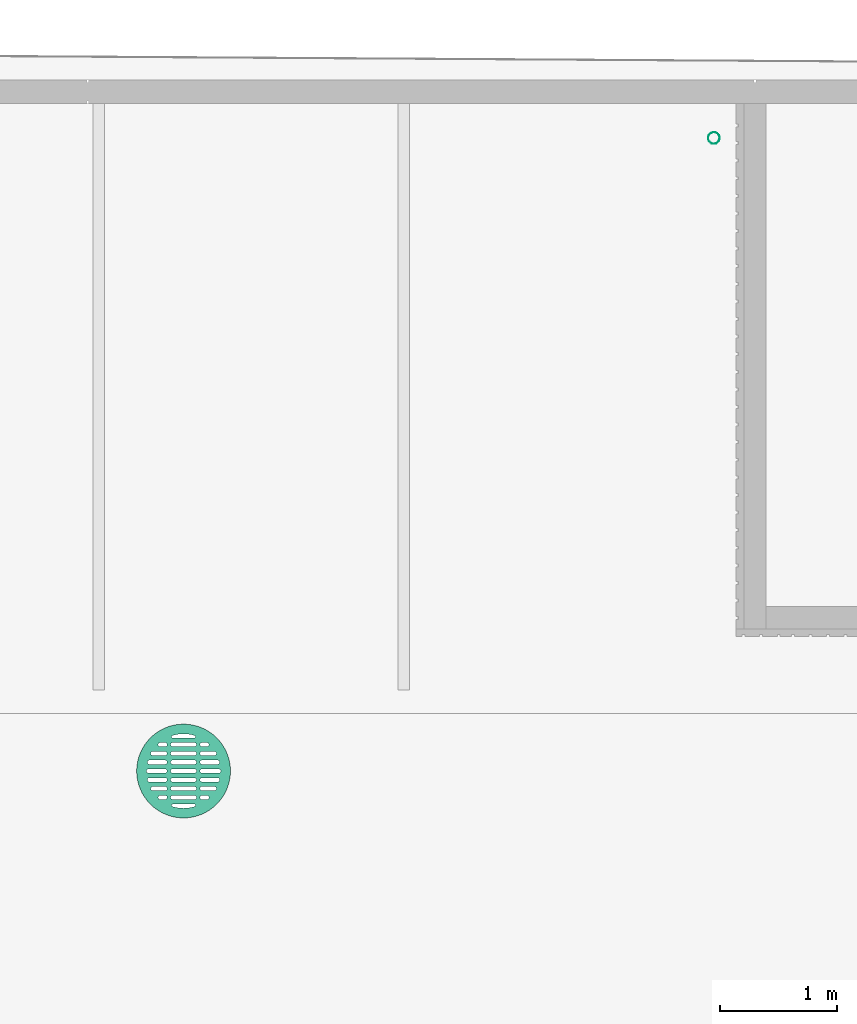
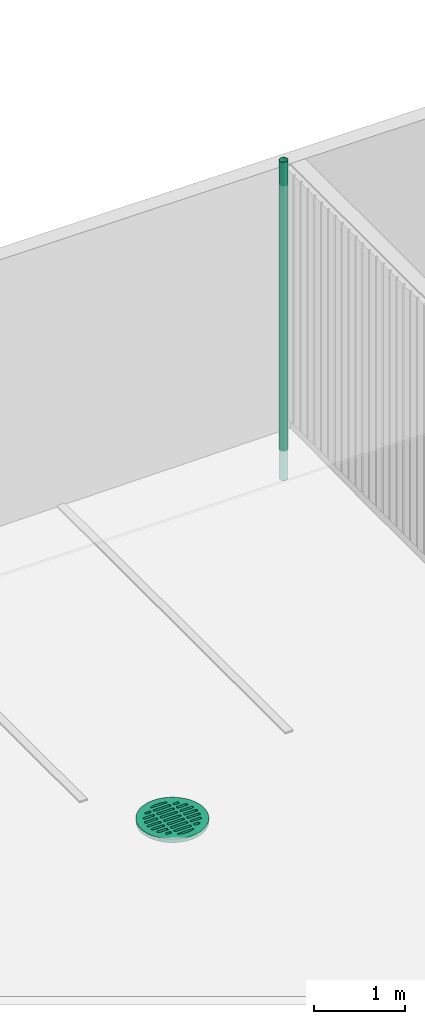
# One storey, part 72 of 77: 2 flow terminals.
"""IFC2X3 building model written with IfcOpenShell, lengths in millimetres."""

from ifc_helpers import new_model, entity, si_unit, converted_unit, derived_unit, direction, frame, frame_2d, origin, origin_2d_with_axis, place, context, subcontext, project, spatial, polyline, circle_curve, parameter, trimmed, segment, composite_curve, hollow_circle, outline, extrude, source, transform, mapped, material, element, save


model = new_model("IFC2X3")

# Units and contexts
model_context = context("Model", 3, precision=0.01, world=origin(), true_north=direction((6.12303176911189e-17, 1.0)))
body_context = subcontext(model_context, "Body", "Model", "MODEL_VIEW")
ifc_project = project(units=[si_unit("LENGTHUNIT", "METRE", prefix="MILLI"), si_unit("AREAUNIT", "SQUARE_METRE"), si_unit("VOLUMEUNIT", "CUBIC_METRE"), converted_unit("PLANEANGLEUNIT", "DEGREE", entity("IfcRatioMeasure", 0.0174532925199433), si_unit("PLANEANGLEUNIT", "RADIAN"), dimensions=[0, 0, 0, 0, 0, 0, 0]), si_unit("MASSUNIT", "GRAM", prefix="KILO"), derived_unit("MASSDENSITYUNIT", [(si_unit("MASSUNIT", "GRAM", prefix="KILO"), 1), (si_unit("LENGTHUNIT", "METRE"), -3)]), si_unit("TIMEUNIT", "SECOND"), si_unit("FREQUENCYUNIT", "HERTZ"), si_unit("THERMODYNAMICTEMPERATUREUNIT", "DEGREE_CELSIUS"), derived_unit("THERMALTRANSMITTANCEUNIT", [(si_unit("MASSUNIT", "GRAM", prefix="KILO"), 1), (si_unit("THERMODYNAMICTEMPERATUREUNIT", "KELVIN"), -1), (si_unit("TIMEUNIT", "SECOND"), -3)]), derived_unit("VOLUMETRICFLOWRATEUNIT", [(si_unit("LENGTHUNIT", "METRE"), 3), (si_unit("TIMEUNIT", "SECOND"), -1)]), si_unit("ELECTRICCURRENTUNIT", "AMPERE"), si_unit("ELECTRICVOLTAGEUNIT", "VOLT"), si_unit("POWERUNIT", "WATT"), si_unit("FORCEUNIT", "NEWTON", prefix="KILO"), si_unit("ILLUMINANCEUNIT", "LUX"), si_unit("LUMINOUSFLUXUNIT", "LUMEN"), si_unit("LUMINOUSINTENSITYUNIT", "CANDELA"), derived_unit("USERDEFINED", [(si_unit("MASSUNIT", "GRAM", prefix="KILO"), -1), (si_unit("LENGTHUNIT", "METRE"), -2), (si_unit("TIMEUNIT", "SECOND"), 3), (si_unit("LUMINOUSFLUXUNIT", "LUMEN"), 1)]), derived_unit("LINEARVELOCITYUNIT", [(si_unit("LENGTHUNIT", "METRE"), 1), (si_unit("TIMEUNIT", "SECOND"), -1)]), si_unit("PRESSUREUNIT", "PASCAL"), derived_unit("USERDEFINED", [(si_unit("LENGTHUNIT", "METRE"), -2), (si_unit("MASSUNIT", "GRAM", prefix="KILO"), 1), (si_unit("TIMEUNIT", "SECOND"), -2)])], contexts=[model_context])

# Site, building, storey
site_placement = place(None, origin())
site = spatial("IfcSite", under=ifc_project, at=site_placement, Name="Default", CompositionType="ELEMENT")
building_placement = place(site_placement, origin())
building = spatial("IfcBuilding", under=site, at=building_placement, CompositionType="ELEMENT")
storey_placement = place(building_placement, origin())
storey = spatial("IfcBuildingStorey", under=building, at=storey_placement, Name="1. KORRUS", CompositionType="ELEMENT", Elevation=0.0)

# Flow terminals
ifc_material_1 = material(Name="RAL8023")
shared_shape_1 = source(origin(), body_context, "Body", "SweptSolid", [
    extrude(hollow_circle(Radius=49.9999999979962, WallThickness=2.0, at=origin_2d_with_axis()), frame((944.769999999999, 40304.9994344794, -534.524799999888)), (0.0, 0.0, 1.0), 4254.99999999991),
])
flow_terminal_1_placement = place(storey_placement, origin())
element("IfcFlowTerminal", 1, at=flow_terminal_1_placement, inside=storey, material=ifc_material_1, Name="varikatuse vihmaveetoru 4:varikatuse vihmaveetoru 1", ObjectType="varikatuse vihmaveetoru 1", context=body_context, shape_type="MappedRepresentation", body=[
    mapped(shared_shape_1, transform((0.0, 0.0, 0.0), scale=1.0)),
])
ifc_material_2 = material(Name="malm")
shared_shape_2 = source(origin(), body_context, "Body", "SweptSolid", [
    extrude(outline(composite_curve([segment(trimmed(circle_curve(origin_2d_with_axis(), 400.0), [parameter(0.0)], [parameter(180.0)], True, "PARAMETER"), True, "CONTINUOUS"), segment(trimmed(circle_curve(origin_2d_with_axis(), 400.0), [parameter(180.0)], [parameter(360.0)], True, "PARAMETER"), True, "CONTINUOUS")], self_intersect=False), holes=[composite_curve([segment(trimmed(circle_curve(frame_2d((92.5, 0.0), x_axis=(1.0, 0.0)), 17.5), [parameter(270.0)], [parameter(90.0)], True, "PARAMETER"), False, "CONTINUOUS"), segment(polyline([(92.5, -17.5000000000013), (-92.5, -17.5000000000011)]), True, "CONTINUOUS"), segment(trimmed(circle_curve(frame_2d((-92.5, 0.0), x_axis=(-1.0, 0.0)), 17.5), [parameter(270.0)], [parameter(90.0000000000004)], True, "PARAMETER"), False, "CONTINUOUS"), segment(polyline([(-92.5000000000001, 17.4999999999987), (92.5, 17.4999999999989)]), True, "CONTINUOUS")], self_intersect=False), composite_curve([segment(trimmed(circle_curve(frame_2d((92.5000000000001, 75.0), x_axis=(1.0, 0.0)), 17.5), [parameter(270.0)], [parameter(90.0000000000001)], True, "PARAMETER"), False, "CONTINUOUS"), segment(polyline([(92.5000000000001, 57.4999999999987), (-92.4999999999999, 57.4999999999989)]), True, "CONTINUOUS"), segment(trimmed(circle_curve(frame_2d((-92.4999999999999, 75.0), x_axis=(-1.0, 0.0)), 17.5), [parameter(270.0)], [parameter(90.0000000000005)], True, "PARAMETER"), False, "CONTINUOUS"), segment(polyline([(-92.5, 92.4999999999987), (92.5000000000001, 92.4999999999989)]), True, "CONTINUOUS")], self_intersect=False), composite_curve([segment(trimmed(circle_curve(frame_2d((92.5000000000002, 150.0), x_axis=(1.0, 0.0)), 17.5), [parameter(270.0)], [parameter(90.0000000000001)], True, "PARAMETER"), False, "CONTINUOUS"), segment(polyline([(92.5000000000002, 132.499999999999), (-92.4999999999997, 132.499999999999)]), True, "CONTINUOUS"), segment(trimmed(circle_curve(frame_2d((-92.4999999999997, 150.0), x_axis=(-1.0, 0.0)), 17.5), [parameter(270.0)], [parameter(90.0000000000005)], True, "PARAMETER"), False, "CONTINUOUS"), segment(polyline([(-92.4999999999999, 167.499999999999), (92.5000000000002, 167.499999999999)]), True, "CONTINUOUS")], self_intersect=False), composite_curve([segment(trimmed(circle_curve(frame_2d((92.5000000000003, 225.0), x_axis=(1.0, 0.0)), 17.5), [parameter(270.0)], [parameter(90.0000000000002)], True, "PARAMETER"), False, "CONTINUOUS"), segment(polyline([(92.5000000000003, 207.499999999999), (-92.4999999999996, 207.499999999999)]), True, "CONTINUOUS"), segment(trimmed(circle_curve(frame_2d((-92.4999999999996, 225.0), x_axis=(-1.0, 0.0)), 17.5), [parameter(270.0)], [parameter(90.0000000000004)], True, "PARAMETER"), False, "CONTINUOUS"), segment(polyline([(-92.4999999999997, 242.499999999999), (92.5000000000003, 242.499999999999)]), True, "CONTINUOUS")], self_intersect=False), composite_curve([segment(trimmed(circle_curve(frame_2d((-92.4999999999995, 293.113425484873), x_axis=(1.0, 0.0)), 10.6134254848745), [parameter(125.029046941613)], [parameter(270.0)], True, "PARAMETER"), False, "CONTINUOUS"), segment(trimmed(circle_curve(origin_2d_with_axis(), 317.499999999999), [parameter(71.9090650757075)], [parameter(108.090934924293)], True, "PARAMETER"), False, "CONTINUOUS"), segment(trimmed(circle_curve(frame_2d((92.5000000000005, 293.113425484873), x_axis=(-1.0, 0.0)), 10.6134254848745), [parameter(90.0000000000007)], [parameter(234.970953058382)], True, "PARAMETER"), False, "CONTINUOUS"), segment(polyline([(92.5000000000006, 282.499999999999), (-92.4999999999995, 282.499999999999)]), True, "CONTINUOUS")], self_intersect=False), composite_curve([segment(trimmed(circle_curve(frame_2d((300.0, 0.0), x_axis=(1.0, 0.0)), 17.5), [parameter(270.0)], [parameter(90.0000000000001)], True, "PARAMETER"), False, "CONTINUOUS"), segment(polyline([(300.0, -17.500000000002), (157.5, -17.5000000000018)]), True, "CONTINUOUS"), segment(trimmed(circle_curve(frame_2d((157.5, 0.0), x_axis=(-1.0, 0.0)), 17.5), [parameter(270.0)], [parameter(90.0000000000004)], True, "PARAMETER"), False, "CONTINUOUS"), segment(polyline([(157.5, 17.4999999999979), (300.0, 17.4999999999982)]), True, "CONTINUOUS")], self_intersect=False), composite_curve([segment(trimmed(circle_curve(frame_2d((291.014586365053, 75.0), x_axis=(1.0, 0.0)), 17.5), [parameter(270.0)], [parameter(90.0000000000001)], True, "PARAMETER"), False, "CONTINUOUS"), segment(polyline([(291.014586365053, 57.499999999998), (157.5, 57.4999999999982)]), True, "CONTINUOUS"), segment(trimmed(circle_curve(frame_2d((157.5, 75.0), x_axis=(-1.0, 0.0)), 17.5), [parameter(270.0)], [parameter(90.0000000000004)], True, "PARAMETER"), False, "CONTINUOUS"), segment(polyline([(157.5, 92.4999999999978), (291.014586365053, 92.4999999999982)]), True, "CONTINUOUS")], self_intersect=False), composite_curve([segment(trimmed(circle_curve(frame_2d((262.33253920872, 150.0), x_axis=(1.0, 0.0)), 17.5), [parameter(270.0)], [parameter(90.0000000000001)], True, "PARAMETER"), False, "CONTINUOUS"), segment(polyline([(262.33253920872, 132.499999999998), (157.5, 132.499999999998)]), True, "CONTINUOUS"), segment(trimmed(circle_curve(frame_2d((157.5, 150.0), x_axis=(-1.0, 0.0)), 17.5), [parameter(270.0)], [parameter(90.0000000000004)], True, "PARAMETER"), False, "CONTINUOUS"), segment(polyline([(157.5, 167.499999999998), (262.33253920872, 167.499999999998)]), True, "CONTINUOUS")], self_intersect=False), composite_curve([segment(trimmed(circle_curve(frame_2d((199.154622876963, 225.0), x_axis=(1.0, 0.0)), 17.5), [parameter(270.0)], [parameter(90.0000000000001)], True, "PARAMETER"), False, "CONTINUOUS"), segment(polyline([(199.154622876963, 207.499999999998), (157.5, 207.499999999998)]), True, "CONTINUOUS"), segment(trimmed(circle_curve(frame_2d((157.5, 225.0), x_axis=(-1.0, 0.0)), 17.5), [parameter(270.0)], [parameter(90.0000000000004)], True, "PARAMETER"), False, "CONTINUOUS"), segment(polyline([(157.5, 242.499999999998), (199.154622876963, 242.499999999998)]), True, "CONTINUOUS")], self_intersect=False), composite_curve([segment(polyline([(-291.014586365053, 92.4999999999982), (-157.5, 92.4999999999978)]), True, "CONTINUOUS"), segment(trimmed(circle_curve(frame_2d((-157.5, 75.0), x_axis=(1.0, 0.0)), 17.5), [parameter(270.0)], [parameter(90.0000000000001)], True, "PARAMETER"), False, "CONTINUOUS"), segment(polyline([(-157.5, 57.4999999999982), (-291.014586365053, 57.499999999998)]), True, "CONTINUOUS"), segment(trimmed(circle_curve(frame_2d((-291.014586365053, 75.0), x_axis=(-1.0, 0.0)), 17.5), [parameter(270.0)], [parameter(90.0000000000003)], True, "PARAMETER"), False, "CONTINUOUS")], self_intersect=False), composite_curve([segment(polyline([(-262.33253920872, 167.499999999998), (-157.5, 167.499999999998)]), True, "CONTINUOUS"), segment(trimmed(circle_curve(frame_2d((-157.5, 150.0), x_axis=(1.0, 0.0)), 17.5), [parameter(270.0)], [parameter(90.0000000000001)], True, "PARAMETER"), False, "CONTINUOUS"), segment(polyline([(-157.5, 132.499999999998), (-262.33253920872, 132.499999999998)]), True, "CONTINUOUS"), segment(trimmed(circle_curve(frame_2d((-262.33253920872, 150.0), x_axis=(-1.0, 0.0)), 17.5), [parameter(270.0)], [parameter(90.0000000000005)], True, "PARAMETER"), False, "CONTINUOUS")], self_intersect=False), composite_curve([segment(polyline([(-199.154622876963, 242.499999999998), (-157.5, 242.499999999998)]), True, "CONTINUOUS"), segment(trimmed(circle_curve(frame_2d((-157.5, 225.0), x_axis=(1.0, 0.0)), 17.5), [parameter(270.0)], [parameter(90.0000000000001)], True, "PARAMETER"), False, "CONTINUOUS"), segment(polyline([(-157.5, 207.499999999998), (-199.154622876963, 207.499999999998)]), True, "CONTINUOUS"), segment(trimmed(circle_curve(frame_2d((-199.154622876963, 225.0), x_axis=(-1.0, 0.0)), 17.5), [parameter(270.0)], [parameter(90.0000000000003)], True, "PARAMETER"), False, "CONTINUOUS")], self_intersect=False), composite_curve([segment(polyline([(-300.0, 17.4999999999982), (-157.5, 17.4999999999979)]), True, "CONTINUOUS"), segment(trimmed(circle_curve(frame_2d((-157.5, 0.0), x_axis=(1.0, 0.0)), 17.5), [parameter(270.0)], [parameter(90.0000000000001)], True, "PARAMETER"), False, "CONTINUOUS"), segment(polyline([(-157.5, -17.5000000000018), (-300.0, -17.500000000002)]), True, "CONTINUOUS"), segment(trimmed(circle_curve(frame_2d((-300.0, 0.0), x_axis=(-1.0, 0.0)), 17.5), [parameter(270.0)], [parameter(90.0000000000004)], True, "PARAMETER"), False, "CONTINUOUS")], self_intersect=False), composite_curve([segment(polyline([(92.5000000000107, -92.5000000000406), (-92.4999999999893, -92.5000000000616)]), True, "CONTINUOUS"), segment(trimmed(circle_curve(frame_2d((-92.4999999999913, -75.0), x_axis=(-1.0, 0.0)), 17.5), [parameter(270.0)], [parameter(90.0000000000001)], True, "PARAMETER"), False, "CONTINUOUS"), segment(polyline([(-92.4999999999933, -57.5000000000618), (92.5000000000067, -57.5000000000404)]), True, "CONTINUOUS"), segment(trimmed(circle_curve(frame_2d((92.5000000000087, -75.0), x_axis=(1.0, 0.0)), 17.5), [parameter(270.0)], [parameter(90.0000000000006)], True, "PARAMETER"), False, "CONTINUOUS")], self_intersect=False), composite_curve([segment(polyline([(92.5000000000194, -167.500000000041), (-92.4999999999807, -167.500000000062)]), True, "CONTINUOUS"), segment(trimmed(circle_curve(frame_2d((-92.4999999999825, -150.0), x_axis=(-1.0, 0.0)), 17.5), [parameter(270.0)], [parameter(90.0000000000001)], True, "PARAMETER"), False, "CONTINUOUS"), segment(polyline([(-92.4999999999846, -132.500000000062), (92.5000000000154, -132.50000000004)]), True, "CONTINUOUS"), segment(trimmed(circle_curve(frame_2d((92.5000000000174, -150.0), x_axis=(1.0, 0.0)), 17.5), [parameter(270.0)], [parameter(90.0000000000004)], True, "PARAMETER"), False, "CONTINUOUS")], self_intersect=False), composite_curve([segment(polyline([(92.5000000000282, -242.500000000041), (-92.4999999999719, -242.500000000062)]), True, "CONTINUOUS"), segment(trimmed(circle_curve(frame_2d((-92.4999999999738, -225.0), x_axis=(-1.0, 0.0)), 17.5), [parameter(270.0)], [parameter(90.0)], True, "PARAMETER"), False, "CONTINUOUS"), segment(polyline([(-92.4999999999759, -207.500000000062), (92.5000000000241, -207.50000000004)]), True, "CONTINUOUS"), segment(trimmed(circle_curve(frame_2d((92.5000000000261, -225.0), x_axis=(1.0, 0.0)), 17.5), [parameter(270.0)], [parameter(90.0000000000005)], True, "PARAMETER"), False, "CONTINUOUS")], self_intersect=False), composite_curve([segment(polyline([(-92.4999999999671, -282.500000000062), (92.5000000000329, -282.500000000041)]), True, "CONTINUOUS"), segment(trimmed(circle_curve(frame_2d((92.5000000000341, -293.113425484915), x_axis=(-1.0, 0.0)), 10.6134254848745), [parameter(125.029046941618)], [parameter(270.0)], True, "PARAMETER"), False, "CONTINUOUS"), segment(trimmed(circle_curve(origin_2d_with_axis(), 317.499999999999), [parameter(251.909065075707)], [parameter(288.090934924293)], True, "PARAMETER"), False, "CONTINUOUS"), segment(trimmed(circle_curve(frame_2d((-92.4999999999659, -293.113425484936), x_axis=(1.0, 0.0)), 10.6134254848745), [parameter(90.0000000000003)], [parameter(234.970953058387)], True, "PARAMETER"), False, "CONTINUOUS")], self_intersect=False), composite_curve([segment(polyline([(291.014586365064, -92.5000000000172), (157.500000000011, -92.5000000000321)]), True, "CONTINUOUS"), segment(trimmed(circle_curve(frame_2d((157.500000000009, -75.0), x_axis=(-1.0, 0.0)), 17.5), [parameter(270.0)], [parameter(90.0)], True, "PARAMETER"), False, "CONTINUOUS"), segment(polyline([(157.500000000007, -57.5000000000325), (291.01458636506, -57.5000000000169)]), True, "CONTINUOUS"), segment(trimmed(circle_curve(frame_2d((291.014586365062, -75.0), x_axis=(1.0, 0.0)), 17.5), [parameter(270.0)], [parameter(90.0000000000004)], True, "PARAMETER"), False, "CONTINUOUS")], self_intersect=False), composite_curve([segment(polyline([(262.33253920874, -167.50000000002), (157.500000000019, -167.500000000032)]), True, "CONTINUOUS"), segment(trimmed(circle_curve(frame_2d((157.500000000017, -150.0), x_axis=(-1.0, 0.0)), 17.5), [parameter(270.0)], [parameter(90.0)], True, "PARAMETER"), False, "CONTINUOUS"), segment(polyline([(157.500000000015, -132.500000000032), (262.332539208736, -132.50000000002)]), True, "CONTINUOUS"), segment(trimmed(circle_curve(frame_2d((262.332539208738, -150.0), x_axis=(1.0, 0.0)), 17.5), [parameter(270.0)], [parameter(90.0000000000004)], True, "PARAMETER"), False, "CONTINUOUS")], self_intersect=False), composite_curve([segment(polyline([(199.154622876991, -242.500000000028), (157.500000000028, -242.500000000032)]), True, "CONTINUOUS"), segment(trimmed(circle_curve(frame_2d((157.500000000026, -225.0), x_axis=(-1.0, 0.0)), 17.5), [parameter(270.0)], [parameter(90.0)], True, "PARAMETER"), False, "CONTINUOUS"), segment(polyline([(157.500000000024, -207.500000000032), (199.154622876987, -207.500000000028)]), True, "CONTINUOUS"), segment(trimmed(circle_curve(frame_2d((199.154622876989, -225.0), x_axis=(1.0, 0.0)), 17.5), [parameter(270.0)], [parameter(90.0000000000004)], True, "PARAMETER"), False, "CONTINUOUS")], self_intersect=False), composite_curve([segment(trimmed(circle_curve(frame_2d((-291.014586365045, -75.0), x_axis=(-1.0, 0.0)), 17.5), [parameter(270.0)], [parameter(90.0000000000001)], True, "PARAMETER"), False, "CONTINUOUS"), segment(polyline([(-291.014586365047, -57.5000000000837), (-157.499999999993, -57.5000000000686)]), True, "CONTINUOUS"), segment(trimmed(circle_curve(frame_2d((-157.499999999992, -75.0), x_axis=(1.0, 0.0)), 17.5), [parameter(270.0)], [parameter(90.0000000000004)], True, "PARAMETER"), False, "CONTINUOUS"), segment(polyline([(-157.499999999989, -92.5000000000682), (-291.014586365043, -92.5000000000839)]), True, "CONTINUOUS")], self_intersect=False), composite_curve([segment(trimmed(circle_curve(frame_2d((-262.332539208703, -150.0), x_axis=(-1.0, 0.0)), 17.5), [parameter(270.0)], [parameter(90.0000000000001)], True, "PARAMETER"), False, "CONTINUOUS"), segment(polyline([(-262.332539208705, -132.50000000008), (-157.499999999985, -132.500000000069)]), True, "CONTINUOUS"), segment(trimmed(circle_curve(frame_2d((-157.499999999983, -150.0), x_axis=(1.0, 0.0)), 17.5), [parameter(270.0)], [parameter(90.0000000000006)], True, "PARAMETER"), False, "CONTINUOUS"), segment(polyline([(-157.499999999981, -167.500000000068), (-262.332539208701, -167.500000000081)]), True, "CONTINUOUS")], self_intersect=False), composite_curve([segment(trimmed(circle_curve(frame_2d((-199.154622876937, -225.0), x_axis=(-1.0, 0.0)), 17.5), [parameter(270.0)], [parameter(90.0)], True, "PARAMETER"), False, "CONTINUOUS"), segment(polyline([(-199.154622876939, -207.500000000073), (-157.499999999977, -207.500000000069)]), True, "CONTINUOUS"), segment(trimmed(circle_curve(frame_2d((-157.499999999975, -225.0), x_axis=(1.0, 0.0)), 17.5), [parameter(270.0)], [parameter(90.0000000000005)], True, "PARAMETER"), False, "CONTINUOUS"), segment(polyline([(-157.499999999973, -242.500000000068), (-199.154622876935, -242.500000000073)]), True, "CONTINUOUS")], self_intersect=False)]), frame((0.0, 0.0, -50.0)), (0.0, 0.0, 1.0), 50.0),
])
flow_terminal_2_placement = place(storey_placement, frame((-3576.57969207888, 34909.0284938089, -220.0)))
element("IfcFlowTerminal", 2, at=flow_terminal_2_placement, inside=storey, material=ifc_material_2, Name="restkaev:restkaev", ObjectType="restkaev", context=body_context, shape_type="MappedRepresentation", body=[
    mapped(shared_shape_2, transform((0.0, 0.0, 0.0), scale=1.0)),
])

save(model, "model.ifc")
